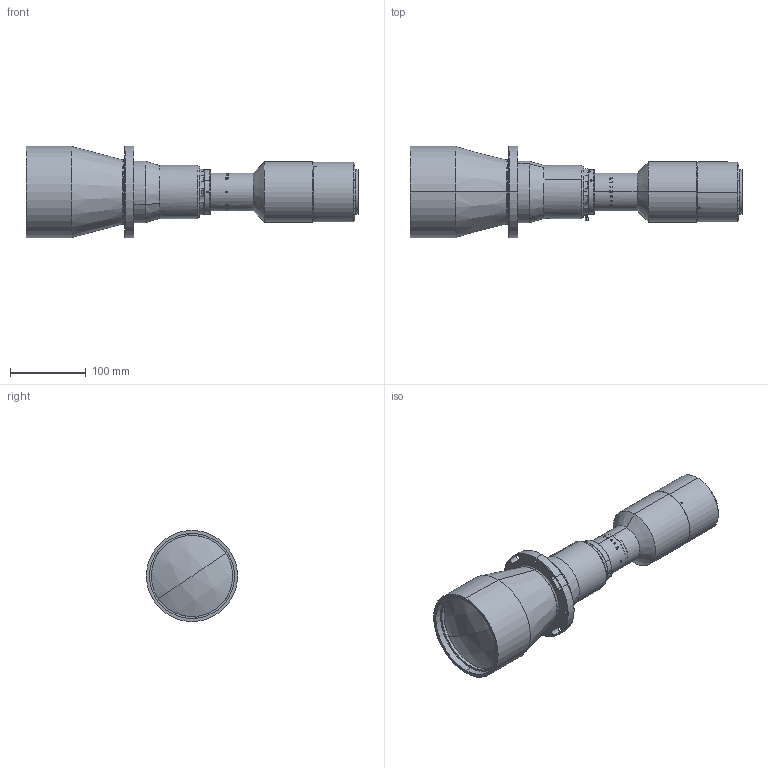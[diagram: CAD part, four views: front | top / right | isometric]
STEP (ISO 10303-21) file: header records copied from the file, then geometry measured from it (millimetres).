
FILE_DESCRIPTION (( 'STEP AP203' ), '1' );
FILE_NAME ('XF-PTL09244-M58-11.48-VI.STEP', '2020-05-09T02:45:16', ( 'puyufan' ), ( '' ), 'SwSTEP 2.0', 'SolidWorks 2014', '' );
FILE_SCHEMA (( 'CONFIG_CONTROL_DESIGN' ));
Length unit declared in the file: millimetre
Products named in the file (1): XF-PTL09244-M58-11.48-VI
Bounding box: 436.99 x 120 x 120 mm (x, y, z)
Volume: 2326998.2 mm3; surface area: 187669.1 mm2
Topology: 4 solids, 18 shells, 745 faces, 1930 edges, 1256 vertices
Faces by surface type: plane 278, cylinder 232, bspline 148, cone 81, torus 4, sphere 2
Entity records: 42915 total; most frequent: CARTESIAN_POINT 25727, ORIENTED_EDGE 3844, DIRECTION 3100, EDGE_CURVE 1922, VERTEX_POINT 1256, AXIS2_PLACEMENT_3D 1229, EDGE_LOOP 834, FACE_OUTER_BOUND 745
